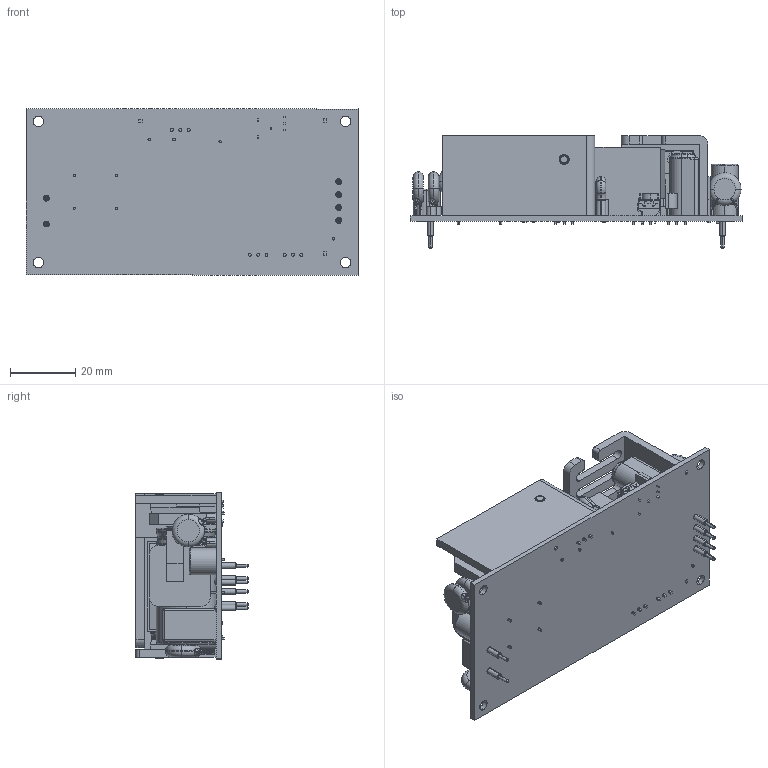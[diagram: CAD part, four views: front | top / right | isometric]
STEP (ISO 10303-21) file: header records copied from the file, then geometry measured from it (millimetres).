
FILE_DESCRIPTION (( 'STEP AP214' ), '1' );
FILE_NAME ('CFM40 60-P²Õ¦X¥ó102,09,24.STEP', '2018-01-12T03:27:48', ( 'cincon' ), ( '' ), 'SwSTEP 2.0', 'SolidWorks 2008', '' );
FILE_SCHEMA (( 'AUTOMOTIVE_DESIGN' ));
Length unit declared in the file: millimetre
Products named in the file (6): CFM40 60-P 102,09,24; CFM40 60變壓器A 971208; CFM40 60-P PIN示意圖 102,09,24; 電晶體10mm(附螺絲); CFM40 60-P組合件102,09,24; 18.3mm電容
Assembly tree (12 placements, depth 2):
  CFM40 60-P組合件102,09,24
    18.3mm電容
    CFM40 60-P 102,09,24
    CFM40 60-P PIN示意圖 102,09,24  x6
    CFM40 60變壓器A 971208
    電晶體10mm(附螺絲)  x3
Bounding box: 101.6 x 34.3 x 50.8 mm (x, y, z)
Volume: 61325.5 mm3; surface area: 37589.9 mm2
Topology: 12 solids, 12 shells, 1754 faces, 4334 edges, 2673 vertices
Faces by surface type: plane 756, cylinder 618, torus 221, bspline 93, cone 48, sphere 18
Entity records: 59226 total; most frequent: CARTESIAN_POINT 14269, DIRECTION 7867, ORIENTED_EDGE 7572, EDGE_CURVE 3786, AXIS2_PLACEMENT_3D 2897, VERTEX_POINT 2332, LINE 2073, VECTOR 2073
